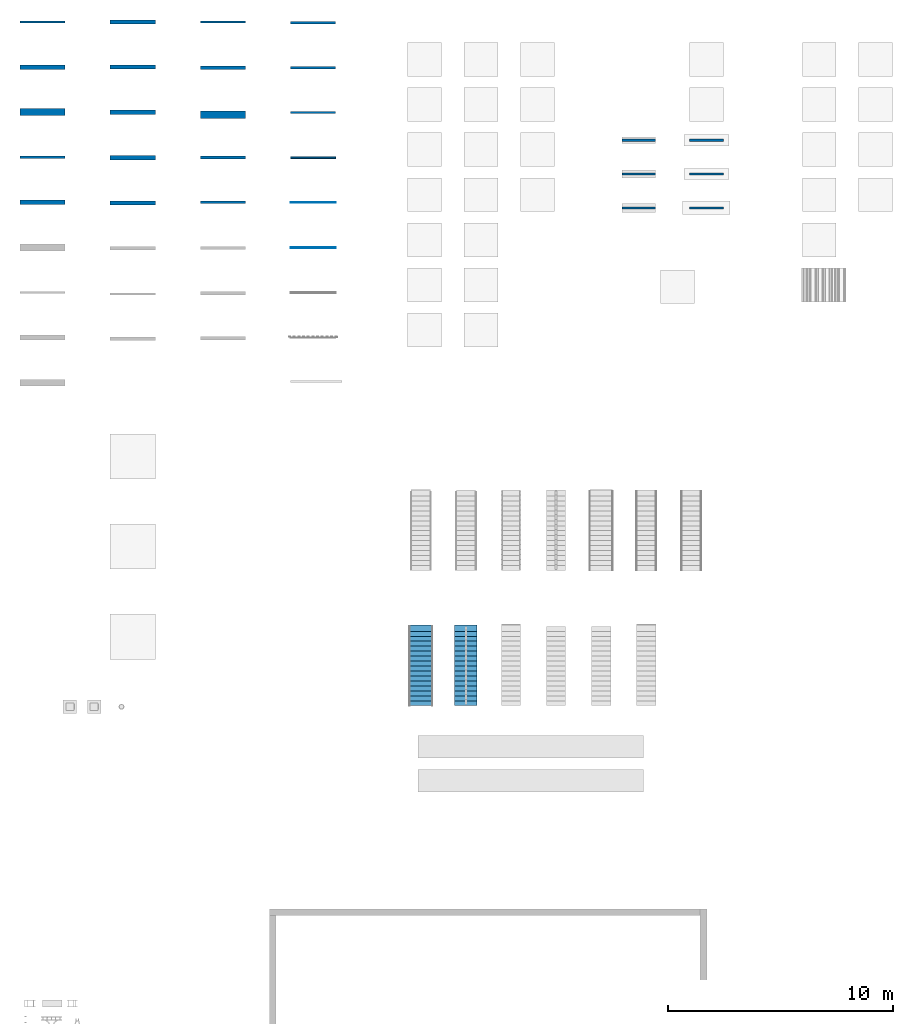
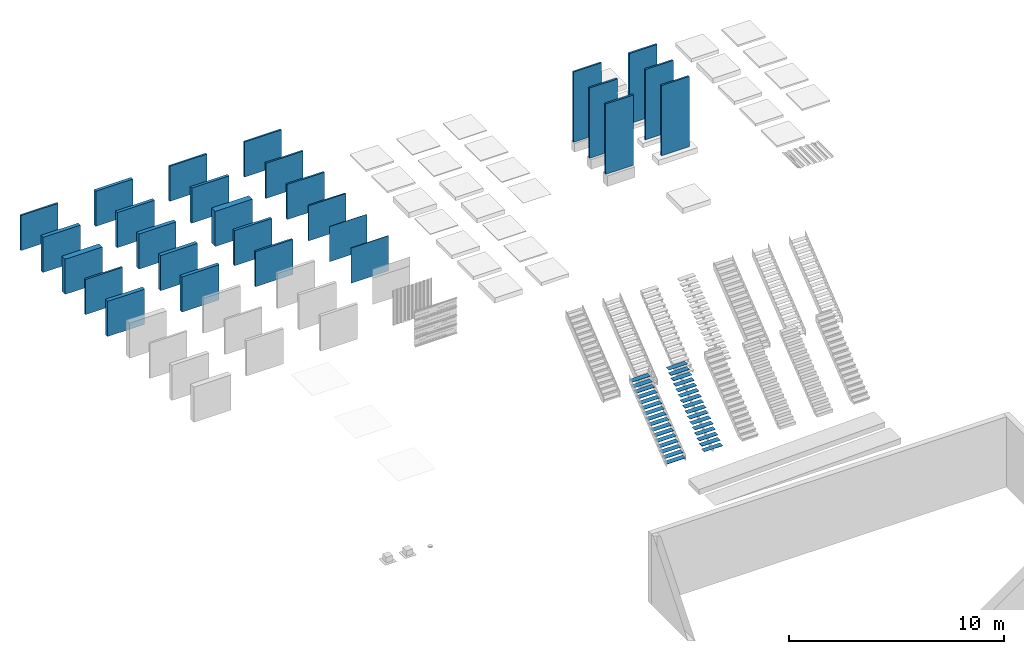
# One storey, part 5 of 13: 27 walls, 2 stair flights, 2 elements without a shape of their own.
"""IFC2X3 building model written with IfcOpenShell, lengths in millimetres."""

from ifc_helpers import new_model, entity, si_unit, converted_unit, derived_unit, direction, frame, frame_2d, origin, origin_2d_with_axis, place, context, subcontext, project, spatial, rectangle, extrude, material, layer, layer_set, layer_usage, type_object, element, aggregate, save


model = new_model("IFC2X3")

# Units and contexts
model_context = context("Model", 3, precision=0.01, world=origin(), true_north=direction((6.12303176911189e-17, 1.0)))
body_context = subcontext(model_context, "Body", "Model", "MODEL_VIEW")
ifc_project = project(units=[si_unit("LENGTHUNIT", "METRE", prefix="MILLI"), si_unit("AREAUNIT", "SQUARE_METRE"), si_unit("VOLUMEUNIT", "CUBIC_METRE"), converted_unit("PLANEANGLEUNIT", "DEGREE", entity("IfcRatioMeasure", 0.0174532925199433), si_unit("PLANEANGLEUNIT", "RADIAN"), dimensions=[0, 0, 0, 0, 0, 0, 0]), si_unit("MASSUNIT", "GRAM", prefix="KILO"), si_unit("TIMEUNIT", "SECOND"), si_unit("FREQUENCYUNIT", "HERTZ"), si_unit("THERMODYNAMICTEMPERATUREUNIT", "KELVIN"), derived_unit("THERMALTRANSMITTANCEUNIT", [(si_unit("MASSUNIT", "GRAM", prefix="KILO"), 1), (si_unit("THERMODYNAMICTEMPERATUREUNIT", "KELVIN"), -1), (si_unit("TIMEUNIT", "SECOND"), -3)]), derived_unit("VOLUMETRICFLOWRATEUNIT", [(si_unit("LENGTHUNIT", "METRE"), 3), (si_unit("TIMEUNIT", "SECOND"), -1)]), si_unit("ELECTRICCURRENTUNIT", "AMPERE"), si_unit("ELECTRICVOLTAGEUNIT", "VOLT"), si_unit("POWERUNIT", "WATT")], contexts=[model_context])

# Site, building, storey
site_placement = place(None, origin())
site = spatial("IfcSite", under=ifc_project, at=site_placement, Name="Surface", CompositionType="ELEMENT")
building_placement = place(site_placement, origin())
building = spatial("IfcBuilding", under=site, at=building_placement, CompositionType="ELEMENT")
storey_placement = place(building_placement, origin())
storey = spatial("IfcBuildingStorey", under=building, at=storey_placement, Name="00_begane grond", CompositionType="ELEMENT", Elevation=0.0)

# Walls
ifc_material_1 = material(Name="Default")
ifc_layer_1 = layer(ifc_material_1, 100.0)
ifc_layer_set_1 = layer_set([ifc_layer_1], Name="Basic Wall:20_WA_wand_generiek_100")
ifc_layer_usage_1 = layer_usage(ifc_layer_set_1, "AXIS2", "NEGATIVE", 50.0)
wall_type_1 = type_object("IfcWallType", Name="Basic Wall:20_WA_wand_generiek_100", PredefinedType="STANDARD", material=ifc_layer_set_1)
wall_1_placement = place(storey_placement, frame((0.0, -1000.0, 0.0)))
element("IfcWallStandardCase", 1, at=wall_1_placement, inside=storey, type_object=wall_type_1, material=ifc_layer_usage_1, Name="Basic Wall:20_WA_wand_generiek_100", ObjectType="Basic Wall:20_WA_wand_generiek_100:1384", context=body_context, shape_type="SweptSolid", body=[
    extrude(rectangle(XDim=2000.0, YDim=100.0, at=frame_2d((1000.0, -7.105427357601e-15), x_axis=(-1.0, 0.0))), origin(), (0.0, 0.0, 1.0), 2000.0),
])
ifc_layer_usage_2 = layer_usage(ifc_layer_set_1, "AXIS2", "NEGATIVE", 50.0)
wall_2_placement = place(storey_placement, frame((29689.8687148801, -6248.9380073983, 0.0)))
element("IfcWallStandardCase", 2, at=wall_2_placement, inside=storey, type_object=wall_type_1, material=ifc_layer_usage_2, Name="Basic Wall:20_WA_wand_generiek_100", ObjectType="Basic Wall:20_WA_wand_generiek_100:1384", context=body_context, shape_type="SweptSolid", body=[
    extrude(rectangle(XDim=1500.0, YDim=99.9999999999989, at=frame_2d((750.000000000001, -7.8159700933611e-14), x_axis=(-1.0, 0.0))), origin(), (0.0, 0.0, 1.0), 4000.0),
])
ifc_layer_usage_3 = layer_usage(ifc_layer_set_1, "AXIS2", "NEGATIVE", 50.0)
wall_3_placement = place(storey_placement, frame((29689.8687148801, -7748.9380073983, 0.0)))
element("IfcWallStandardCase", 3, at=wall_3_placement, inside=storey, type_object=wall_type_1, material=ifc_layer_usage_3, Name="Basic Wall:20_WA_wand_generiek_100", ObjectType="Basic Wall:20_WA_wand_generiek_100:1384", context=body_context, shape_type="SweptSolid", body=[
    extrude(rectangle(XDim=1500.0, YDim=100.000000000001, at=frame_2d((750.000000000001, -8.17124146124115e-14), x_axis=(-1.0, 0.0))), origin(), (0.0, 0.0, 1.0), 4000.0),
])
ifc_layer_usage_4 = layer_usage(ifc_layer_set_1, "AXIS2", "NEGATIVE", 50.0)
wall_4_placement = place(storey_placement, frame((29689.8687148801, -9248.9380073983, 0.0)))
element("IfcWallStandardCase", 4, at=wall_4_placement, inside=storey, type_object=wall_type_1, material=ifc_layer_usage_4, Name="Basic Wall:20_WA_wand_generiek_100", ObjectType="Basic Wall:20_WA_wand_generiek_100:1384", context=body_context, shape_type="SweptSolid", body=[
    extrude(rectangle(XDim=1500.0, YDim=99.9999999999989, at=frame_2d((750.000000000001, -7.8159700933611e-14), x_axis=(-1.0, 0.0))), origin(), (0.0, 0.0, 1.0), 4000.0),
])
ifc_layer_usage_5 = layer_usage(ifc_layer_set_1, "AXIS2", "NEGATIVE", 50.0)
wall_5_placement = place(storey_placement, frame((26689.8687148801, -6248.93800739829, 0.0)))
element("IfcWallStandardCase", 5, at=wall_5_placement, inside=storey, type_object=wall_type_1, material=ifc_layer_usage_5, Name="Basic Wall:20_WA_wand_generiek_100", ObjectType="Basic Wall:20_WA_wand_generiek_100:1384", context=body_context, shape_type="SweptSolid", body=[
    extrude(rectangle(XDim=1500.0, YDim=100.000000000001, at=frame_2d((750.000000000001, -8.17124146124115e-14), x_axis=(-1.0, 0.0))), origin(), (0.0, 0.0, 1.0), 4000.0),
])
ifc_layer_usage_6 = layer_usage(ifc_layer_set_1, "AXIS2", "NEGATIVE", 50.0)
wall_6_placement = place(storey_placement, frame((26689.8687148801, -7748.93800739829, 0.0)))
element("IfcWallStandardCase", 6, at=wall_6_placement, inside=storey, type_object=wall_type_1, material=ifc_layer_usage_6, Name="Basic Wall:20_WA_wand_generiek_100", ObjectType="Basic Wall:20_WA_wand_generiek_100:1384", context=body_context, shape_type="SweptSolid", body=[
    extrude(rectangle(XDim=1500.0, YDim=99.9999999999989, at=frame_2d((750.000000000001, -7.8159700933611e-14), x_axis=(-1.0, 0.0))), origin(), (0.0, 0.0, 1.0), 4000.0),
])
ifc_layer_usage_7 = layer_usage(ifc_layer_set_1, "AXIS2", "NEGATIVE", 50.0)
wall_7_placement = place(storey_placement, frame((26689.86871488, -9248.93800739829, 0.0)))
element("IfcWallStandardCase", 7, at=wall_7_placement, inside=storey, type_object=wall_type_1, material=ifc_layer_usage_7, Name="Basic Wall:20_WA_wand_generiek_100", ObjectType="Basic Wall:20_WA_wand_generiek_100:1384", context=body_context, shape_type="SweptSolid", body=[
    extrude(rectangle(XDim=1500.0, YDim=100.000000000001, at=frame_2d((750.000000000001, -8.17124146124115e-14), x_axis=(-1.0, 0.0))), origin(), (0.0, 0.0, 1.0), 4000.0),
])
ifc_layer_2 = layer(ifc_material_1, 200.0)
ifc_layer_set_2 = layer_set([ifc_layer_2], Name="Basic Wall:20_WA_wand_generiek_200")
ifc_layer_usage_8 = layer_usage(ifc_layer_set_2, "AXIS2", "NEGATIVE", 100.0)
wall_type_2 = type_object("IfcWallType", Name="Basic Wall:20_WA_wand_generiek_200", PredefinedType="STANDARD", material=ifc_layer_set_2)
wall_8_placement = place(storey_placement, frame((0.0, -3000.0, 0.0)))
element("IfcWallStandardCase", 8, at=wall_8_placement, inside=storey, type_object=wall_type_2, material=ifc_layer_usage_8, Name="Basic Wall:20_WA_wand_generiek_200", ObjectType="Basic Wall:20_WA_wand_generiek_200", context=body_context, shape_type="SweptSolid", body=[
    extrude(rectangle(XDim=2000.0, YDim=200.0, at=frame_2d((1000.0, -7.105427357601e-15), x_axis=(-1.0, 0.0))), origin(), (0.0, 0.0, 1.0), 2000.0),
])
ifc_layer_3 = layer(ifc_material_1, 300.0)
ifc_layer_set_3 = layer_set([ifc_layer_3], Name="Basic Wall:20_WA_wand_generiek_300")
ifc_layer_usage_9 = layer_usage(ifc_layer_set_3, "AXIS2", "NEGATIVE", 150.0)
wall_type_3 = type_object("IfcWallType", Name="Basic Wall:20_WA_wand_generiek_300", PredefinedType="STANDARD", material=ifc_layer_set_3)
wall_9_placement = place(storey_placement, frame((0.0, -5000.0, 0.0)))
element("IfcWallStandardCase", 9, at=wall_9_placement, inside=storey, type_object=wall_type_3, material=ifc_layer_usage_9, Name="Basic Wall:20_WA_wand_generiek_300", ObjectType="Basic Wall:20_WA_wand_generiek_300", context=body_context, shape_type="SweptSolid", body=[
    extrude(rectangle(XDim=2000.0, YDim=300.000000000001, at=frame_2d((1000.0, -2.70006239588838e-13), x_axis=(-1.0, 0.0))), origin(), (0.0, 0.0, 1.0), 2000.0),
])
ifc_material_2 = material(Name="00_baksteen_bestaand")
ifc_layer_4 = layer(ifc_material_2, 100.0)
ifc_layer_set_4 = layer_set([ifc_layer_4], Name="Basic Wall:21_WA_mw-bestaand_100")
ifc_layer_usage_10 = layer_usage(ifc_layer_set_4, "AXIS2", "NEGATIVE", 50.0)
wall_type_4 = type_object("IfcWallType", Name="Basic Wall:21_WA_mw-bestaand_100", PredefinedType="STANDARD", material=ifc_layer_set_4)
wall_10_placement = place(storey_placement, frame((0.0, -7000.0, 0.0)))
element("IfcWallStandardCase", 10, at=wall_10_placement, inside=storey, type_object=wall_type_4, material=ifc_layer_usage_10, Name="Basic Wall:21_WA_mw-bestaand_100", ObjectType="Basic Wall:21_WA_mw-bestaand_100", context=body_context, shape_type="SweptSolid", body=[
    extrude(rectangle(XDim=2000.0, YDim=99.9999999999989, at=frame_2d((1000.0, -7.105427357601e-15), x_axis=(-1.0, 0.0))), origin(), (0.0, 0.0, 1.0), 2000.0),
])
ifc_layer_5 = layer(ifc_material_2, 210.0)
ifc_layer_set_5 = layer_set([ifc_layer_5], Name="Basic Wall:21_WA_mw_bestaand_210")
ifc_layer_usage_11 = layer_usage(ifc_layer_set_5, "AXIS2", "NEGATIVE", 105.0)
wall_type_5 = type_object("IfcWallType", Name="Basic Wall:21_WA_mw_bestaand_210", PredefinedType="STANDARD", material=ifc_layer_set_5)
wall_11_placement = place(storey_placement, frame((0.0, -9000.0, 0.0)))
element("IfcWallStandardCase", 11, at=wall_11_placement, inside=storey, type_object=wall_type_5, material=ifc_layer_usage_11, Name="Basic Wall:21_WA_mw_bestaand_210", ObjectType="Basic Wall:21_WA_mw_bestaand_210", context=body_context, shape_type="SweptSolid", body=[
    extrude(rectangle(XDim=2000.0, YDim=210.0, at=frame_2d((1000.0, -1.4210854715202e-14), x_axis=(-1.0, 0.0))), origin(), (0.0, 0.0, 1.0), 2000.0),
])
ifc_material_3 = material(Name="20_baksteen_wf_210x100x50_10mm_voeg_halfsteens_rood_genuanceerd")
ifc_layer_6 = layer(ifc_material_3, 100.0)
ifc_material_4 = material(Name="00_lucht_spouw_muur_geventileerd")
ifc_layer_7 = layer(ifc_material_4, 70.0)
ifc_layer_set_6 = layer_set([ifc_layer_6, ifc_layer_7], Name="Basic Wall:-70")
ifc_layer_usage_12 = layer_usage(ifc_layer_set_6, "AXIS2", "NEGATIVE", 85.0)
wall_type_6 = type_object("IfcWallType", Name="Basic Wall:-70", PredefinedType="STANDARD", material=ifc_layer_set_6)
wall_12_placement = place(storey_placement, frame((4000.0, -1000.0, 0.0)))
element("IfcWallStandardCase", 12, at=wall_12_placement, inside=storey, type_object=wall_type_6, material=ifc_layer_usage_12, Name="Basic Wall:-70", ObjectType="Basic Wall:-70", context=body_context, shape_type="SweptSolid", body=[
    extrude(rectangle(XDim=2000.0, YDim=170.0, at=frame_2d((1000.0, -7.105427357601e-15), x_axis=(-1.0, 0.0))), origin(), (0.0, 0.0, 1.0), 2000.0),
])
ifc_layer_8 = layer(ifc_material_3, 100.0)
ifc_layer_9 = layer(ifc_material_4, 20.0)
ifc_material_5 = material(Name="20_isolatie_steenwol")
ifc_layer_10 = layer(ifc_material_5, 50.0)
ifc_layer_set_7 = layer_set([ifc_layer_8, ifc_layer_9, ifc_layer_10], Name="Basic Wall:21_WA_mw_spouw_iso-sw_170_100-20-50")
ifc_layer_usage_13 = layer_usage(ifc_layer_set_7, "AXIS2", "NEGATIVE", 85.0)
wall_type_7 = type_object("IfcWallType", Name="Basic Wall:21_WA_mw_spouw_iso-sw_170_100-20-50", PredefinedType="STANDARD", material=ifc_layer_set_7)
wall_13_placement = place(storey_placement, frame((4000.0, -3000.0, 0.0)))
element("IfcWallStandardCase", 13, at=wall_13_placement, inside=storey, type_object=wall_type_7, material=ifc_layer_usage_13, Name="Basic Wall:21_WA_mw_spouw_iso-sw_170_100-20-50", ObjectType="Basic Wall:21_WA_mw_spouw_iso-sw_170_100-20-50", context=body_context, shape_type="SweptSolid", body=[
    extrude(rectangle(XDim=2000.0, YDim=170.0, at=frame_2d((1000.0, -7.105427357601e-15), x_axis=(-1.0, 0.0))), origin(), (0.0, 0.0, 1.0), 2000.0),
])
ifc_layer_11 = layer(ifc_material_3, 100.0)
ifc_layer_12 = layer(ifc_material_4, 30.0)
ifc_layer_13 = layer(ifc_material_5, 70.0)
ifc_layer_set_8 = layer_set([ifc_layer_11, ifc_layer_12, ifc_layer_13], Name="Basic Wall:21_WA_mw_spouw_iso-sw_200_100-30-70")
ifc_layer_usage_14 = layer_usage(ifc_layer_set_8, "AXIS2", "NEGATIVE", 100.0)
wall_type_8 = type_object("IfcWallType", Name="Basic Wall:21_WA_mw_spouw_iso-sw_200_100-30-70", PredefinedType="STANDARD", material=ifc_layer_set_8)
wall_14_placement = place(storey_placement, frame((4000.0, -5000.0, 0.0)))
element("IfcWallStandardCase", 14, at=wall_14_placement, inside=storey, type_object=wall_type_8, material=ifc_layer_usage_14, Name="Basic Wall:21_WA_mw_spouw_iso-sw_200_100-30-70", ObjectType="Basic Wall:21_WA_mw_spouw_iso-sw_200_100-30-70", context=body_context, shape_type="SweptSolid", body=[
    extrude(rectangle(XDim=2000.0, YDim=200.0, at=frame_2d((1000.0, -7.105427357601e-15), x_axis=(-1.0, 0.0))), origin(), (0.0, 0.0, 1.0), 2000.0),
])
ifc_layer_usage_15 = layer_usage(ifc_layer_set_8, "AXIS2", "NEGATIVE", 100.0)
wall_15_placement = place(storey_placement, frame((4000.0, -7020.0, 0.0)))
element("IfcWallStandardCase", 15, at=wall_15_placement, inside=storey, type_object=wall_type_8, material=ifc_layer_usage_15, Name="Basic Wall:21_WA_mw_spouw_iso-sw_200_100-30-70", ObjectType="Basic Wall:21_WA_mw_spouw_iso-sw_200_100-30-70", context=body_context, shape_type="SweptSolid", body=[
    extrude(rectangle(XDim=2000.0, YDim=200.0, at=frame_2d((1000.0, -7.105427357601e-15), x_axis=(-1.0, 0.0))), origin(), (0.0, 0.0, 1.0), 2000.0),
])
ifc_material_6 = material(Name="41_hout_hardhout_geveldelen_donkerblauw_horizontaal")
ifc_layer_14 = layer(ifc_material_6, 20.0)
ifc_material_7 = material(Name="40_regelwerk_geventileerd")
ifc_layer_15 = layer(ifc_material_7, 30.0)
ifc_layer_16 = layer(ifc_material_7, 10.0)
ifc_layer_17 = layer(ifc_material_5, 120.0)
ifc_layer_set_9 = layer_set([ifc_layer_14, ifc_layer_15, ifc_layer_16, ifc_layer_17], Name="Basic Wall:21_WA_hout-wrc-hor_rachel_tengel_iso-sw_180_20-30-10-120")
ifc_layer_usage_16 = layer_usage(ifc_layer_set_9, "AXIS2", "NEGATIVE", 90.0)
wall_type_9 = type_object("IfcWallType", Name="Basic Wall:21_WA_hout-wrc-hor_rachel_tengel_iso-sw_180_20-30-10-120", PredefinedType="STANDARD", material=ifc_layer_set_9)
wall_16_placement = place(storey_placement, frame((4000.0, -9030.0, 0.0)))
element("IfcWallStandardCase", 16, at=wall_16_placement, inside=storey, type_object=wall_type_9, material=ifc_layer_usage_16, Name="Basic Wall:21_WA_hout-wrc-hor_rachel_tengel_iso-sw_180_20-30-10-120", ObjectType="Basic Wall:21_WA_hout-wrc-hor_rachel_tengel_iso-sw_180_20-30-10-120", context=body_context, shape_type="SweptSolid", body=[
    extrude(rectangle(XDim=2000.0, YDim=180.0, at=frame_2d((1000.0, -7.105427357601e-15), x_axis=(-1.0, 0.0))), origin(), (0.0, 0.0, 1.0), 2000.0),
])
ifc_material_8 = material(Name="28_kalkzandsteen_CS16")
ifc_layer_18 = layer(ifc_material_8, 100.0)
ifc_layer_set_10 = layer_set([ifc_layer_18], Name="Basic Wall:28_WA_kzs_CS16_100")
ifc_layer_usage_17 = layer_usage(ifc_layer_set_10, "AXIS2", "NEGATIVE", 50.0)
wall_type_10 = type_object("IfcWallType", Name="Basic Wall:28_WA_kzs_CS16_100", PredefinedType="STANDARD", material=ifc_layer_set_10)
wall_17_placement = place(storey_placement, frame((8000.0, -1000.0, 0.0)))
element("IfcWallStandardCase", 17, at=wall_17_placement, inside=storey, type_object=wall_type_10, material=ifc_layer_usage_17, Name="Basic Wall:28_WA_kzs_CS16_100", ObjectType="Basic Wall:28_WA_kzs_CS16_100", context=body_context, shape_type="SweptSolid", body=[
    extrude(rectangle(XDim=2000.0, YDim=100.0, at=frame_2d((1000.0, -7.105427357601e-15), x_axis=(-1.0, 0.0))), origin(), (0.0, 0.0, 1.0), 2000.0),
])
ifc_layer_19 = layer(ifc_material_8, 150.0)
ifc_layer_set_11 = layer_set([ifc_layer_19], Name="Basic Wall:28_WA_kzs_CS16_150")
ifc_layer_usage_18 = layer_usage(ifc_layer_set_11, "AXIS2", "NEGATIVE", 75.0)
wall_type_11 = type_object("IfcWallType", Name="Basic Wall:28_WA_kzs_CS16_150", PredefinedType="STANDARD", material=ifc_layer_set_11)
wall_18_placement = place(storey_placement, frame((8000.0, -3025.0, 0.0)))
element("IfcWallStandardCase", 18, at=wall_18_placement, inside=storey, type_object=wall_type_11, material=ifc_layer_usage_18, Name="Basic Wall:28_WA_kzs_CS16_150", ObjectType="Basic Wall:28_WA_kzs_CS16_150", context=body_context, shape_type="SweptSolid", body=[
    extrude(rectangle(XDim=2000.0, YDim=150.000000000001, at=frame_2d((1000.0, -7.105427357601e-15), x_axis=(-1.0, 0.0))), origin(), (0.0, 0.0, 1.0), 2000.0),
])
ifc_layer_20 = layer(ifc_material_8, 150.0)
ifc_layer_21 = layer(ifc_material_4, 30.0)
ifc_layer_22 = layer(ifc_material_8, 150.0)
ifc_layer_set_12 = layer_set([ifc_layer_20, ifc_layer_21, ifc_layer_22], Name="Basic Wall:28_WA_kzs-CS16_spouw_kzs-C16_330_150-30-150")
ifc_layer_usage_19 = layer_usage(ifc_layer_set_12, "AXIS2", "NEGATIVE", 165.0)
wall_type_12 = type_object("IfcWallType", Name="Basic Wall:28_WA_kzs-CS16_spouw_kzs-C16_330_150-30-150", PredefinedType="STANDARD", material=ifc_layer_set_12)
wall_19_placement = place(storey_placement, frame((8000.0, -5115.0, 0.0)))
element("IfcWallStandardCase", 19, at=wall_19_placement, inside=storey, type_object=wall_type_12, material=ifc_layer_usage_19, Name="Basic Wall:28_WA_kzs-CS16_spouw_kzs-C16_330_150-30-150", ObjectType="Basic Wall:28_WA_kzs-CS16_spouw_kzs-C16_330_150-30-150", context=body_context, shape_type="SweptSolid", body=[
    extrude(rectangle(XDim=2000.0, YDim=330.000000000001, at=frame_2d((1000.0, 0.0), x_axis=(-1.0, 0.0))), origin(), (0.0, 0.0, 1.0), 2000.0),
])
ifc_material_9 = material(Name="28_poriso_dragend")
ifc_layer_23 = layer(ifc_material_9, 140.0)
ifc_layer_set_13 = layer_set([ifc_layer_23], Name="Basic Wall:28_WA_por_PM25_140")
ifc_layer_usage_20 = layer_usage(ifc_layer_set_13, "AXIS2", "NEGATIVE", 70.0)
wall_type_13 = type_object("IfcWallType", Name="Basic Wall:28_WA_por_PM25_140", PredefinedType="STANDARD", material=ifc_layer_set_13)
wall_20_placement = place(storey_placement, frame((8000.0, -7020.0, 0.0)))
element("IfcWallStandardCase", 20, at=wall_20_placement, inside=storey, type_object=wall_type_13, material=ifc_layer_usage_20, Name="Basic Wall:28_WA_por_PM25_140", ObjectType="Basic Wall:28_WA_por_PM25_140", context=body_context, shape_type="SweptSolid", body=[
    extrude(rectangle(XDim=2000.0, YDim=140.000000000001, at=frame_2d((1000.0, -7.105427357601e-15), x_axis=(-1.0, 0.0))), origin(), (0.0, 0.0, 1.0), 2000.0),
])
ifc_material_10 = material(Name="28_cellenbeton_G4/600")
ifc_layer_24 = layer(ifc_material_10, 100.0)
ifc_layer_set_14 = layer_set([ifc_layer_24], Name="Basic Wall:28_WA_cb_G4/600_100")
ifc_layer_usage_21 = layer_usage(ifc_layer_set_14, "AXIS2", "NEGATIVE", 50.0)
wall_type_14 = type_object("IfcWallType", Name="Basic Wall:28_WA_cb_G4/600_100", PredefinedType="STANDARD", material=ifc_layer_set_14)
wall_21_placement = place(storey_placement, frame((8000.0, -9000.0, 0.0)))
element("IfcWallStandardCase", 21, at=wall_21_placement, inside=storey, type_object=wall_type_14, material=ifc_layer_usage_21, Name="Basic Wall:28_WA_cb_G4/600_100", ObjectType="Basic Wall:28_WA_cb_G4/600_100", context=body_context, shape_type="SweptSolid", body=[
    extrude(rectangle(XDim=2000.0, YDim=100.000000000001, at=frame_2d((1000.0, -1.06581410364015e-14), x_axis=(-1.0, 0.0))), origin(), (0.0, 0.0, 1.0), 2000.0),
])
ifc_material_11 = material(Name="22_kalkzandsteen_CS12")
ifc_layer_25 = layer(ifc_material_11, 100.0)
ifc_layer_set_15 = layer_set([ifc_layer_25], Name="Basic Wall:22_WA_kzs_CS12_100")
ifc_layer_usage_22 = layer_usage(ifc_layer_set_15, "AXIS2", "NEGATIVE", 50.0)
wall_type_15 = type_object("IfcWallType", Name="Basic Wall:22_WA_kzs_CS12_100", PredefinedType="STANDARD", material=ifc_layer_set_15)
wall_22_placement = place(storey_placement, frame((12000.0, -1035.0, 0.0)))
element("IfcWallStandardCase", 22, at=wall_22_placement, inside=storey, type_object=wall_type_15, material=ifc_layer_usage_22, Name="Basic Wall:22_WA_kzs_CS12_100", ObjectType="Basic Wall:22_WA_kzs_CS12_100", context=body_context, shape_type="SweptSolid", body=[
    extrude(rectangle(XDim=2000.0, YDim=100.0, at=frame_2d((1000.0, -7.105427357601e-15), x_axis=(-1.0, 0.0))), origin(), (0.0, 0.0, 1.0), 2000.0),
])
ifc_material_12 = material(Name="22_cellenbeton G2/400")
ifc_layer_26 = layer(ifc_material_12, 100.0)
ifc_layer_set_16 = layer_set([ifc_layer_26], Name="Basic Wall:22_WA_cb_G2/400_100")
ifc_layer_usage_23 = layer_usage(ifc_layer_set_16, "AXIS2", "NEGATIVE", 50.0)
wall_type_16 = type_object("IfcWallType", Name="Basic Wall:22_WA_cb_G2/400_100", PredefinedType="STANDARD", material=ifc_layer_set_16)
wall_23_placement = place(storey_placement, frame((12000.0, -3035.0, 0.0)))
element("IfcWallStandardCase", 23, at=wall_23_placement, inside=storey, type_object=wall_type_16, material=ifc_layer_usage_23, Name="Basic Wall:22_WA_cb_G2/400_100", ObjectType="Basic Wall:22_WA_cb_G2/400_100", context=body_context, shape_type="SweptSolid", body=[
    extrude(rectangle(XDim=2000.0, YDim=100.0, at=frame_2d((1000.0, -7.105427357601e-15), x_axis=(-1.0, 0.0))), origin(), (0.0, 0.0, 1.0), 2000.0),
])
ifc_material_13 = material(Name="22_gips_beplating_wand_610mm")
ifc_layer_27 = layer(ifc_material_13, 12.5)
ifc_layer_28 = layer(ifc_material_5, 70.0)
ifc_layer_29 = layer(ifc_material_13, 12.5)
ifc_layer_set_17 = layer_set([ifc_layer_27, ifc_layer_28, ifc_layer_29], Name="Basic Wall:22_WA_ms-wand_gips_isolatie_gips_95_12.5-70-12.5")
ifc_layer_usage_24 = layer_usage(ifc_layer_set_17, "AXIS2", "NEGATIVE", 47.5)
wall_type_17 = type_object("IfcWallType", Name="Basic Wall:22_WA_ms-wand_gips_isolatie_gips_95_12.5-70-12.5", PredefinedType="STANDARD", material=ifc_layer_set_17)
wall_24_placement = place(storey_placement, frame((12000.0, -5020.0, 0.0)))
element("IfcWallStandardCase", 24, at=wall_24_placement, inside=storey, type_object=wall_type_17, material=ifc_layer_usage_24, Name="Basic Wall:22_WA_ms-wand_gips_isolatie_gips_95_12.5-70-12.5", ObjectType="Basic Wall:22_WA_ms-wand_gips_isolatie_gips_95_12.5-70-12.5", context=body_context, shape_type="SweptSolid", body=[
    extrude(rectangle(XDim=2000.0, YDim=95.0000000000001, at=frame_2d((1000.0, -7.105427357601e-15), x_axis=(-1.0, 0.0))), origin(), (0.0, 0.0, 1.0), 2000.0),
])
ifc_material_14 = material(Name="22_glazen_bouwsteen")
ifc_layer_30 = layer(ifc_material_14, 80.0)
ifc_layer_set_18 = layer_set([ifc_layer_30], Name="Basic Wall:22_WA_glazen_bouwsteen_80")
ifc_layer_usage_25 = layer_usage(ifc_layer_set_18, "AXIS2", "NEGATIVE", 40.0)
wall_type_18 = type_object("IfcWallType", Name="Basic Wall:22_WA_glazen_bouwsteen_80", PredefinedType="STANDARD", material=ifc_layer_set_18)
wall_25_placement = place(storey_placement, frame((12000.0, -7025.0, 0.0)))
element("IfcWallStandardCase", 25, at=wall_25_placement, inside=storey, type_object=wall_type_18, material=ifc_layer_usage_25, Name="Basic Wall:22_WA_glazen_bouwsteen_80", ObjectType="Basic Wall:22_WA_glazen_bouwsteen_80", context=body_context, shape_type="SweptSolid", body=[
    extrude(rectangle(XDim=2000.0, YDim=79.9999999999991, at=frame_2d((1000.0, -7.105427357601e-15), x_axis=(-1.0, 0.0))), origin(), (0.0, 0.0, 1.0), 2000.0),
])
ifc_material_15 = material(Name="40_stucwerk_interieur_fijn_wit")
ifc_layer_31 = layer(ifc_material_15, 20.0)
ifc_layer_set_19 = layer_set([ifc_layer_31], Name="Basic Wall:42_WA_stucwerk_20")
ifc_layer_usage_26 = layer_usage(ifc_layer_set_19, "AXIS2", "NEGATIVE", 10.0)
wall_type_19 = type_object("IfcWallType", Name="Basic Wall:42_WA_stucwerk_20", PredefinedType="STANDARD", material=ifc_layer_set_19)
wall_26_placement = place(storey_placement, frame((12000.0, -9007.50000000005, 0.0)))
element("IfcWallStandardCase", 26, at=wall_26_placement, inside=storey, type_object=wall_type_19, material=ifc_layer_usage_26, Name="Basic Wall:42_WA_stucwerk_20", ObjectType="Basic Wall:42_WA_stucwerk_20", context=body_context, shape_type="SweptSolid", body=[
    extrude(rectangle(XDim=2000.0, YDim=19.9999999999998, at=frame_2d((1000.0, -7.99360577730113e-15), x_axis=(-1.0, 0.0))), origin(), (0.0, 0.0, 1.0), 2000.0),
])
ifc_material_16 = material(Name="40_tegels_keramisch_150x150mm_wit")
ifc_layer_32 = layer(ifc_material_16, 10.0)
ifc_material_17 = material(Name="00_zandcement")
ifc_layer_33 = layer(ifc_material_17, 20.0)
ifc_layer_set_20 = layer_set([ifc_layer_32, ifc_layer_33], Name="Basic Wall:42_WA_tegelwerk_150x150x10mm_op cementmortel_wit")
ifc_layer_usage_27 = layer_usage(ifc_layer_set_20, "AXIS2", "NEGATIVE", 15.0)
wall_type_20 = type_object("IfcWallType", Name="Basic Wall:42_WA_tegelwerk_150x150x10mm_op cementmortel_wit", PredefinedType="STANDARD", material=ifc_layer_set_20)
wall_27_placement = place(storey_placement, frame((12000.0, -11012.5, 0.0)))
element("IfcWallStandardCase", 27, at=wall_27_placement, inside=storey, type_object=wall_type_20, material=ifc_layer_usage_27, Name="Basic Wall:42_WA_tegelwerk_150x150x10mm_op cementmortel_wit", ObjectType="Basic Wall:42_WA_tegelwerk_150x150x10mm_op cementmortel_wit", context=body_context, shape_type="SweptSolid", body=[
    extrude(rectangle(XDim=2000.0, YDim=30.0000000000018, at=frame_2d((1000.0, 5.32907051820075e-13), x_axis=(-1.0, 0.0))), origin(), (0.0, 0.0, 1.0), 2000.0),
])

# Stair, stair flight
stair_1_placement = place(storey_placement, origin())
stair_1 = element("IfcStair", 28, at=stair_1_placement, inside=storey, Name="Assembled Stair:Stair", ShapeType="NOTDEFINED")
ifc_material_18 = material(Name="24_staal_gegalvaniseerd_rooster_generiek")
stair_flight_1_placement = place(stair_1_placement, frame((17274.8089026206, -31324.6322235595, 0.0)))
stair_flight_1 = element("IfcStairFlight", 29, at=stair_flight_1_placement, material=ifc_material_18, Name="Assembled Stair:Stair:69305 Run 1", ObjectType="Assembled Stair:24_ST_stalen trap_open_b=1000_op=185_aan=350", NumberOfRiser=17, NumberOfTreads=16, RiserHeight=0.578971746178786, TreadLength=0.721784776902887, context=body_context, shape_type="SweptSolid", body=[
    extrude(rectangle(XDim=270.000000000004, YDim=1000.0, at=frame_2d((2.1600499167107e-12, -2.1600499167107e-12), x_axis=(1.0, 0.0))), frame((500.0, 135.0, 161.470588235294), z_axis=(0.0, 0.0, 1.0), x_axis=(0.0, -1.0, 0.0)), (0.0, 0.0, 1.0), 15.0),
    extrude(rectangle(XDim=269.999999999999, YDim=1000.0, at=frame_2d((4.32009983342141e-12, -2.1600499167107e-12), x_axis=(1.0, 0.0))), frame((500.0, 355.0, 337.941176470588), z_axis=(0.0, 0.0, 1.0), x_axis=(0.0, -1.0, 0.0)), (0.0, 0.0, 1.0), 15.0),
    extrude(rectangle(XDim=270.000000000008, YDim=1000.0, at=frame_2d((-4.33431068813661e-12, -1.08002495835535e-12), x_axis=(1.0, 0.0))), frame((500.0, 575.0, 514.411764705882), z_axis=(0.0, 0.0, 1.0), x_axis=(0.0, -1.0, 0.0)), (0.0, 0.0, 1.0), 15.0),
    extrude(rectangle(XDim=269.999999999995, YDim=1000.0, at=frame_2d((-2.1600499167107e-12, -2.18847162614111e-12), x_axis=(1.0, 0.0))), frame((500.0, 795.0, 690.882352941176), z_axis=(0.0, 0.0, 1.0), x_axis=(0.0, -1.0, 0.0)), (0.0, 0.0, 1.0), 15.0),
    extrude(rectangle(XDim=270.000000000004, YDim=1000.0, at=frame_2d((2.1600499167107e-12, -2.18847162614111e-12), x_axis=(1.0, 0.0))), frame((500.0, 1015.0, 867.35294117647), z_axis=(0.0, 0.0, 1.0), x_axis=(0.0, -1.0, 0.0)), (0.0, 0.0, 1.0), 15.0),
    extrude(rectangle(XDim=269.999999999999, YDim=1000.0, at=frame_2d((0.0, -2.18847162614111e-12), x_axis=(1.0, 0.0))), frame((500.0, 1235.0, 1043.82352941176), z_axis=(0.0, 0.0, 1.0), x_axis=(0.0, -1.0, 0.0)), (0.0, 0.0, 1.0), 15.0),
    extrude(rectangle(XDim=270.000000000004, YDim=1000.0, at=frame_2d((-2.1600499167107e-12, -2.18847162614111e-12), x_axis=(1.0, 0.0))), frame((500.0, 1455.0, 1220.29411764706), z_axis=(0.0, 0.0, 1.0), x_axis=(0.0, -1.0, 0.0)), (0.0, 0.0, 1.0), 15.0000000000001),
    extrude(rectangle(XDim=270.000000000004, YDim=1000.0, at=frame_2d((-2.1600499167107e-12, -1.08002495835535e-12), x_axis=(1.0, 0.0))), frame((500.0, 1675.0, 1396.76470588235), z_axis=(0.0, 0.0, 1.0), x_axis=(0.0, -1.0, 0.0)), (0.0, 0.0, 1.0), 15.0000000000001),
    extrude(rectangle(XDim=269.999999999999, YDim=1000.0, at=frame_2d((4.33431068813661e-12, -1.08002495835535e-12), x_axis=(1.0, 0.0))), frame((500.0, 1895.0, 1573.23529411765), z_axis=(0.0, 0.0, 1.0), x_axis=(0.0, -1.0, 0.0)), (0.0, 0.0, 1.0), 15.0000000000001),
    extrude(rectangle(XDim=270.000000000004, YDim=1000.0, at=frame_2d((2.1600499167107e-12, 0.0), x_axis=(1.0, 0.0))), frame((500.0, 2115.0, 1749.70588235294), z_axis=(0.0, 0.0, 1.0), x_axis=(0.0, -1.0, 0.0)), (0.0, 0.0, 1.0), 15.0000000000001),
    extrude(rectangle(XDim=269.999999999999, YDim=1000.0, at=frame_2d((4.32009983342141e-12, 0.0), x_axis=(1.0, 0.0))), frame((500.0, 2335.0, 1926.17647058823), z_axis=(0.0, 0.0, 1.0), x_axis=(0.0, -1.0, 0.0)), (0.0, 0.0, 1.0), 15.0000000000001),
    extrude(rectangle(XDim=269.999999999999, YDim=1000.0, at=origin_2d_with_axis()), frame((500.0, 2555.0, 2102.64705882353), z_axis=(0.0, 0.0, 1.0), x_axis=(0.0, -1.0, 0.0)), (0.0, 0.0, 1.0), 15.0000000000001),
    extrude(rectangle(XDim=270.000000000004, YDim=1000.0, at=frame_2d((-2.1600499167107e-12, 0.0), x_axis=(1.0, 0.0))), frame((500.0, 2775.0, 2279.11764705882), z_axis=(0.0, 0.0, 1.0), x_axis=(0.0, -1.0, 0.0)), (0.0, 0.0, 1.0), 15.0000000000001),
    extrude(rectangle(XDim=270.000000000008, YDim=1000.0, at=frame_2d((0.0, 1.08002495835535e-12), x_axis=(1.0, 0.0))), frame((500.0, 2995.0, 2455.58823529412), z_axis=(0.0, 0.0, 1.0), x_axis=(0.0, -1.0, 0.0)), (0.0, 0.0, 1.0), 14.9999999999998),
    extrude(rectangle(XDim=269.999999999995, YDim=1000.0, at=frame_2d((2.1600499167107e-12, 0.0), x_axis=(1.0, 0.0))), frame((500.0, 3215.0, 2632.05882352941), z_axis=(0.0, 0.0, 1.0), x_axis=(0.0, -1.0, 0.0)), (0.0, 0.0, 1.0), 14.9999999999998),
    extrude(rectangle(XDim=270.000000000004, YDim=1000.0, at=frame_2d((-2.1600499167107e-12, 0.0), x_axis=(1.0, 0.0))), frame((500.0, 3435.0, 2808.5294117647), z_axis=(0.0, 0.0, 1.0), x_axis=(0.0, -1.0, 0.0)), (0.0, 0.0, 1.0), 14.9999999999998),
])
aggregate(stair_1, [stair_flight_1])

stair_2_placement = place(storey_placement, origin())
stair_2 = element("IfcStair", 30, at=stair_2_placement, inside=storey, Name="Assembled Stair:Stair", ShapeType="NOTDEFINED")
stair_flight_2_placement = place(stair_2_placement, frame((19274.8089026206, -31324.6322235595, 0.0)))
stair_flight_2 = element("IfcStairFlight", 31, at=stair_flight_2_placement, material=ifc_material_18, Name="Assembled Stair:Stair:69309 Run 1", ObjectType="Assembled Stair:24_ST_stalen trap_open_middenboom_b=1000_op=185_aan=220", NumberOfRiser=17, NumberOfTreads=16, RiserHeight=0.578971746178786, TreadLength=0.721784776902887, context=body_context, shape_type="SweptSolid", body=[
    extrude(rectangle(XDim=270.000000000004, YDim=999.999999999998, at=frame_2d((-2.1600499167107e-12, 0.0), x_axis=(1.0, 0.0))), frame((500.0, 135.0, 161.470588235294), z_axis=(0.0, 0.0, 1.0), x_axis=(0.0, -1.0, 0.0)), (0.0, 0.0, 1.0), 15.0),
    extrude(rectangle(XDim=269.999999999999, YDim=999.999999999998, at=origin_2d_with_axis()), frame((500.0, 355.0, 337.941176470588), z_axis=(0.0, 0.0, 1.0), x_axis=(0.0, -1.0, 0.0)), (0.0, 0.0, 1.0), 15.0),
    extrude(rectangle(XDim=270.000000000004, YDim=999.999999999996, at=frame_2d((2.1600499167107e-12, 1.10844666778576e-12), x_axis=(1.0, 0.0))), frame((500.0, 575.0, 514.411764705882), z_axis=(0.0, 0.0, 1.0), x_axis=(0.0, -1.0, 0.0)), (0.0, 0.0, 1.0), 15.0),
    extrude(rectangle(XDim=269.999999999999, YDim=999.999999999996, at=frame_2d((0.0, 1.10844666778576e-12), x_axis=(1.0, 0.0))), frame((500.0, 795.0, 690.882352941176), z_axis=(0.0, 0.0, 1.0), x_axis=(0.0, -1.0, 0.0)), (0.0, 0.0, 1.0), 15.0),
    extrude(rectangle(XDim=270.000000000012, YDim=999.999999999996, at=frame_2d((-6.49436060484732e-12, 1.10844666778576e-12), x_axis=(1.0, 0.0))), frame((500.0, 1015.0, 867.35294117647), z_axis=(0.0, 0.0, 1.0), x_axis=(0.0, -1.0, 0.0)), (0.0, 0.0, 1.0), 15.0),
    extrude(rectangle(XDim=269.999999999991, YDim=1000.0, at=frame_2d((4.33431068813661e-12, 1.10844666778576e-12), x_axis=(1.0, 0.0))), frame((500.0, 1235.0, 1043.82352941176), z_axis=(0.0, 0.0, 1.0), x_axis=(0.0, -1.0, 0.0)), (0.0, 0.0, 1.0), 15.0),
    extrude(rectangle(XDim=270.000000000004, YDim=1000.0, at=frame_2d((2.1600499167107e-12, -1.10844666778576e-12), x_axis=(1.0, 0.0))), frame((500.0, 1455.0, 1220.29411764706), z_axis=(0.0, 0.0, 1.0), x_axis=(0.0, -1.0, 0.0)), (0.0, 0.0, 1.0), 15.0000000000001),
    extrude(rectangle(XDim=269.999999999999, YDim=999.999999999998, at=frame_2d((-4.32009983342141e-12, 0.0), x_axis=(1.0, 0.0))), frame((500.0, 1675.0, 1396.76470588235), z_axis=(0.0, 0.0, 1.0), x_axis=(0.0, -1.0, 0.0)), (0.0, 0.0, 1.0), 15.0000000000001),
    extrude(rectangle(XDim=270.000000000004, YDim=999.999999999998, at=frame_2d((-2.1600499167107e-12, 0.0), x_axis=(1.0, 0.0))), frame((500.0, 1895.0, 1573.23529411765), z_axis=(0.0, 0.0, 1.0), x_axis=(0.0, -1.0, 0.0)), (0.0, 0.0, 1.0), 15.0000000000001),
    extrude(rectangle(XDim=269.999999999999, YDim=999.999999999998, at=origin_2d_with_axis()), frame((500.0, 2115.0, 1749.70588235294), z_axis=(0.0, 0.0, 1.0), x_axis=(0.0, -1.0, 0.0)), (0.0, 0.0, 1.0), 15.0000000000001),
    extrude(rectangle(XDim=270.000000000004, YDim=999.999999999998, at=frame_2d((-2.1600499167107e-12, 0.0), x_axis=(1.0, 0.0))), frame((500.0, 2335.0, 1926.17647058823), z_axis=(0.0, 0.0, 1.0), x_axis=(0.0, -1.0, 0.0)), (0.0, 0.0, 1.0), 15.0000000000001),
    extrude(rectangle(XDim=270.000000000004, YDim=999.999999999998, at=frame_2d((2.1600499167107e-12, 0.0), x_axis=(1.0, 0.0))), frame((500.0, 2555.0, 2102.64705882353), z_axis=(0.0, 0.0, 1.0), x_axis=(0.0, -1.0, 0.0)), (0.0, 0.0, 1.0), 15.0000000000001),
    extrude(rectangle(XDim=269.999999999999, YDim=999.999999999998, at=origin_2d_with_axis()), frame((500.0, 2775.0, 2279.11764705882), z_axis=(0.0, 0.0, 1.0), x_axis=(0.0, -1.0, 0.0)), (0.0, 0.0, 1.0), 15.0000000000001),
    extrude(rectangle(XDim=270.000000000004, YDim=999.999999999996, at=frame_2d((-2.1600499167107e-12, 1.10844666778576e-12), x_axis=(1.0, 0.0))), frame((500.0, 2995.0, 2455.58823529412), z_axis=(0.0, 0.0, 1.0), x_axis=(0.0, -1.0, 0.0)), (0.0, 0.0, 1.0), 14.9999999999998),
    extrude(rectangle(XDim=269.999999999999, YDim=999.999999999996, at=frame_2d((0.0, 1.10844666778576e-12), x_axis=(1.0, 0.0))), frame((500.0, 3215.0, 2632.05882352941), z_axis=(0.0, 0.0, 1.0), x_axis=(0.0, -1.0, 0.0)), (0.0, 0.0, 1.0), 14.9999999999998),
    extrude(rectangle(XDim=270.000000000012, YDim=999.999999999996, at=frame_2d((-6.49436060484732e-12, 1.10844666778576e-12), x_axis=(1.0, 0.0))), frame((500.0, 3435.0, 2808.5294117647), z_axis=(0.0, 0.0, 1.0), x_axis=(0.0, -1.0, 0.0)), (0.0, 0.0, 1.0), 14.9999999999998),
])
aggregate(stair_2, [stair_flight_2])

save(model, "model.ifc")
